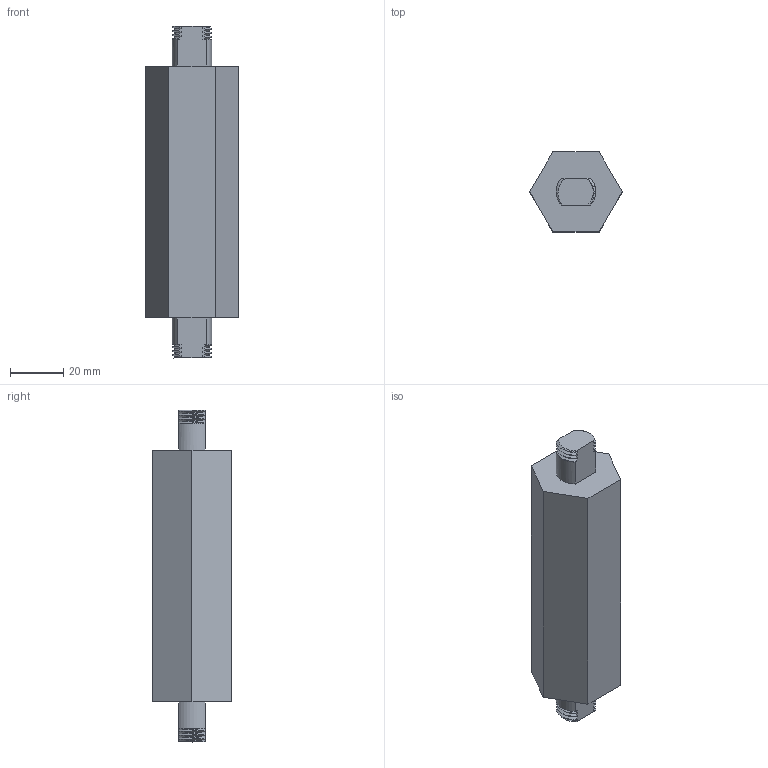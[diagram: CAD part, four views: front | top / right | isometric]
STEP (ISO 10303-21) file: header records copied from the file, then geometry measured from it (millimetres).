
FILE_DESCRIPTION(/* description */ (''),/* implementation_level */ '2;1');
FILE_NAME(/* name */ 'D:/Dokumenty/3D/Luke''s 3D/Projects/Spool winder v3/STEP/Rod.step',/* time_stamp */ '2021-11-14T11:59:17+01:00',/* author */ (''),/* organization */ (''),/* preprocessor_version */ 'ST-DEVELOPER v18.1',/* originating_system */ 'Autodesk Translation Framework v10.10.0.1391',/* authorisation */ '');
FILE_SCHEMA (('AUTOMOTIVE_DESIGN { 1 0 10303 214 3 1 1 }'));
Length unit declared in the file: millimetre
Products named in the file (4): Spool winder 2; SCREWS; SCREW; Rod
Assembly tree (3 placements, depth 4):
  Spool winder 2
    SCREWS
      SCREW
        Rod
Bounding box: 34.64 x 30 x 124.5 mm (x, y, z)
Volume: 32464 mm3; surface area: 21346.5 mm2
Topology: 1 solids, 2 shells, 78 faces, 216 edges, 144 vertices
Faces by surface type: bspline 32, plane 26, cylinder 20
Entity records: 4211 total; most frequent: CARTESIAN_POINT 2424, ORIENTED_EDGE 432, DIRECTION 224, EDGE_CURVE 216, VERTEX_POINT 144, B_SPLINE_CURVE_WITH_KNOTS 112, LINE 90, VECTOR 90
